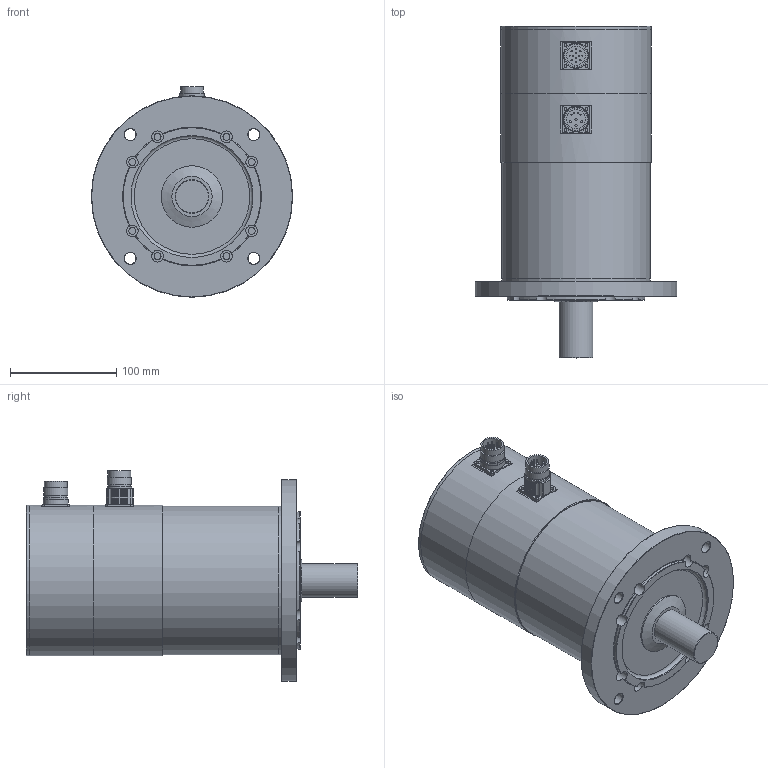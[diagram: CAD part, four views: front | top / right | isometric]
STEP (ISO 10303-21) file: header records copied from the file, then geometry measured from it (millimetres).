
FILE_DESCRIPTION(/* description */ (''),/* implementation_level */ '2;1');
FILE_NAME(/* name */ 'ksy_568e_md_r4',/* time_stamp */ '2007-03-22T07:29:45+01:00',/* author */ (''),/* organization */ (''),/* preprocessor_version */ 'ST-DEVELOPER v8',/* originating_system */ 'UNIGRAPHICS SOLUTIONS - UNIGRAPHICS 18.0',/* authorisation */ '');
FILE_SCHEMA (('AUTOMOTIVE_DESIGN { 1 2 10303 214 0 1 1 1 }'));
Length unit declared in the file: millimetre
Products named in the file (11): 06333701_0; 014261_0; 014260_0; 064267_0; 064323_0; 115121_0; DIN3760_org_A35x52x7_0; Rotor_SY 56.. E_0; Gehaeuse_SY 56.. E_0; 115115_0; KSY564_E-MD-R4_0
Assembly tree (10 placements, depth 2):
  KSY564_E-MD-R4_0
    115115_0
    Gehaeuse_SY 56.. E_0
    Rotor_SY 56.. E_0
    DIN3760_org_A35x52x7_0
    115121_0
    064323_0
    064267_0
    014260_0
    014261_0
    06333701_0
Bounding box: 190 x 313 x 198.5 mm (x, y, z)
Volume: 3326204.8 mm3; surface area: 375876.1 mm2
Topology: 10 solids, 10 shells, 323 faces, 812 edges, 521 vertices
Faces by surface type: cylinder 169, plane 81, cone 36, sphere 20, torus 17
Full cylindrical faces by diameter (mm): 1 x16, 2 x4, 2.7 x8, 4.5 x4, 6.6 x8, 8 x4, 11 x12, 18 x2, 20 x4, 21 x2, 21.5 x2, 23 x4, 24 x1, 31.52 x1, 31.95 x1, 32 x1, 35 x2, 35.3 x1, 40 x1, 49 x1, 52 x2, 58 x1, 60 x1, 72 x1, 110 x1, 115 x1, 116.3 x1, 118 x2, 119.3 x1, 120 x1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
Entity records: 8891 total; most frequent: CARTESIAN_POINT 1649, DIRECTION 1600, ORIENTED_EDGE 1114, AXIS2_PLACEMENT_3D 741, EDGE_LOOP 566, EDGE_CURVE 557, VERTEX_POINT 446, CIRCLE 407
